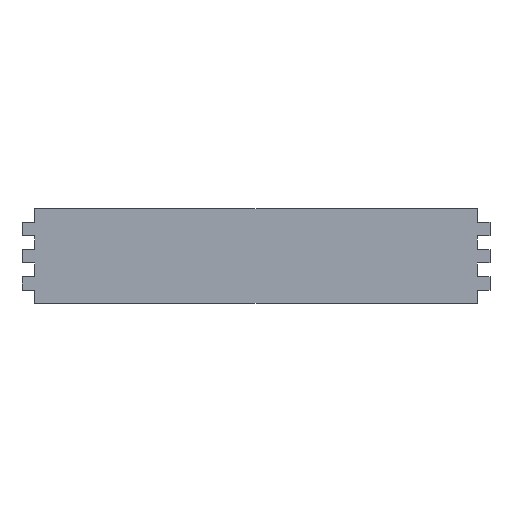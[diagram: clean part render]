
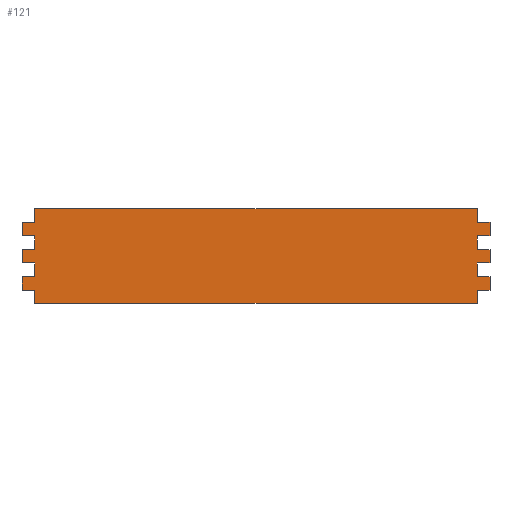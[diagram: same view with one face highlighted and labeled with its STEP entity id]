
A CAD part, top view. The second image highlights one B-rep face of the part: STEP entity #121.
In plain terms, the highlighted free-form (B-spline) face has degree [1, 1] with [2, 2] control points.
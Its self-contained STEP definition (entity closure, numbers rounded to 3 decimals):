
#121=ADVANCED_FACE('',(#151),#519,.T.);
#151=FACE_OUTER_BOUND('',#181,.T.);
#181=EDGE_LOOP('',(#322,#323,#324,#325,#326,#327,#328,#329,#330,#331,#332,
#333,#334,#335,#336,#337,#338,#339,#340,#341,#342,#343,#344,#345,#346,#347,
#348,#349));
#322=ORIENTED_EDGE('',*,*,#433,.F.);
#323=ORIENTED_EDGE('',*,*,#431,.F.);
#324=ORIENTED_EDGE('',*,*,#429,.F.);
#325=ORIENTED_EDGE('',*,*,#427,.F.);
#326=ORIENTED_EDGE('',*,*,#425,.F.);
#327=ORIENTED_EDGE('',*,*,#423,.F.);
#328=ORIENTED_EDGE('',*,*,#421,.F.);
#329=ORIENTED_EDGE('',*,*,#419,.F.);
#330=ORIENTED_EDGE('',*,*,#417,.F.);
#331=ORIENTED_EDGE('',*,*,#415,.F.);
#332=ORIENTED_EDGE('',*,*,#413,.F.);
#333=ORIENTED_EDGE('',*,*,#411,.F.);
#334=ORIENTED_EDGE('',*,*,#409,.F.);
#335=ORIENTED_EDGE('',*,*,#407,.F.);
#336=ORIENTED_EDGE('',*,*,#405,.F.);
#337=ORIENTED_EDGE('',*,*,#403,.F.);
#338=ORIENTED_EDGE('',*,*,#401,.F.);
#339=ORIENTED_EDGE('',*,*,#399,.F.);
#340=ORIENTED_EDGE('',*,*,#397,.F.);
#341=ORIENTED_EDGE('',*,*,#395,.F.);
#342=ORIENTED_EDGE('',*,*,#393,.F.);
#343=ORIENTED_EDGE('',*,*,#391,.F.);
#344=ORIENTED_EDGE('',*,*,#389,.F.);
#345=ORIENTED_EDGE('',*,*,#387,.F.);
#346=ORIENTED_EDGE('',*,*,#385,.F.);
#347=ORIENTED_EDGE('',*,*,#383,.F.);
#348=ORIENTED_EDGE('',*,*,#381,.F.);
#349=ORIENTED_EDGE('',*,*,#379,.F.);
#379=EDGE_CURVE('',#462,#463,#549,.T.);
#381=EDGE_CURVE('',#463,#464,#551,.T.);
#383=EDGE_CURVE('',#464,#465,#553,.T.);
#385=EDGE_CURVE('',#465,#466,#555,.T.);
#387=EDGE_CURVE('',#466,#467,#557,.T.);
#389=EDGE_CURVE('',#467,#468,#559,.T.);
#391=EDGE_CURVE('',#468,#469,#561,.T.);
#393=EDGE_CURVE('',#469,#470,#563,.T.);
#395=EDGE_CURVE('',#470,#471,#565,.T.);
#397=EDGE_CURVE('',#471,#472,#567,.T.);
#399=EDGE_CURVE('',#472,#473,#569,.T.);
#401=EDGE_CURVE('',#473,#474,#571,.T.);
#403=EDGE_CURVE('',#474,#475,#573,.T.);
#405=EDGE_CURVE('',#475,#476,#575,.T.);
#407=EDGE_CURVE('',#476,#477,#577,.T.);
#409=EDGE_CURVE('',#477,#478,#579,.T.);
#411=EDGE_CURVE('',#478,#479,#581,.T.);
#413=EDGE_CURVE('',#479,#480,#583,.T.);
#415=EDGE_CURVE('',#480,#481,#585,.T.);
#417=EDGE_CURVE('',#481,#482,#587,.T.);
#419=EDGE_CURVE('',#482,#483,#589,.T.);
#421=EDGE_CURVE('',#483,#484,#591,.T.);
#423=EDGE_CURVE('',#484,#485,#593,.T.);
#425=EDGE_CURVE('',#485,#486,#595,.T.);
#427=EDGE_CURVE('',#486,#487,#597,.T.);
#429=EDGE_CURVE('',#487,#488,#599,.T.);
#431=EDGE_CURVE('',#488,#489,#601,.T.);
#433=EDGE_CURVE('',#489,#462,#603,.T.);
#462=VERTEX_POINT('',#1022);
#463=VERTEX_POINT('',#1023);
#464=VERTEX_POINT('',#1024);
#465=VERTEX_POINT('',#1025);
#466=VERTEX_POINT('',#1026);
#467=VERTEX_POINT('',#1027);
#468=VERTEX_POINT('',#1028);
#469=VERTEX_POINT('',#1029);
#470=VERTEX_POINT('',#1030);
#471=VERTEX_POINT('',#1031);
#472=VERTEX_POINT('',#1032);
#473=VERTEX_POINT('',#1033);
#474=VERTEX_POINT('',#1034);
#475=VERTEX_POINT('',#1035);
#476=VERTEX_POINT('',#1036);
#477=VERTEX_POINT('',#1037);
#478=VERTEX_POINT('',#1038);
#479=VERTEX_POINT('',#1039);
#480=VERTEX_POINT('',#1040);
#481=VERTEX_POINT('',#1041);
#482=VERTEX_POINT('',#1042);
#483=VERTEX_POINT('',#1043);
#484=VERTEX_POINT('',#1044);
#485=VERTEX_POINT('',#1045);
#486=VERTEX_POINT('',#1046);
#487=VERTEX_POINT('',#1047);
#488=VERTEX_POINT('',#1048);
#489=VERTEX_POINT('',#1049);
#519=B_SPLINE_SURFACE_WITH_KNOTS('',1,1,((#990,#991),(#992,#993)),.UNSPECIFIED.,
.F.,.F.,.F.,(2,2),(2,2),(-150.,0.),(-20.,720.),.UNSPECIFIED.);
#549=B_SPLINE_CURVE_WITH_KNOTS('',1,(#764,#765),.UNSPECIFIED.,.F.,.F.,(2,
2),(0.,21.),.UNSPECIFIED.);
#551=B_SPLINE_CURVE_WITH_KNOTS('',1,(#768,#769),.UNSPECIFIED.,.F.,.F.,(2,
2),(0.,20.),.UNSPECIFIED.);
#553=B_SPLINE_CURVE_WITH_KNOTS('',1,(#772,#773),.UNSPECIFIED.,.F.,.F.,(2,
2),(0.,21.),.UNSPECIFIED.);
#555=B_SPLINE_CURVE_WITH_KNOTS('',1,(#776,#777),.UNSPECIFIED.,.F.,.F.,(2,
2),(0.,20.),.UNSPECIFIED.);
#557=B_SPLINE_CURVE_WITH_KNOTS('',1,(#780,#781),.UNSPECIFIED.,.F.,.F.,(2,
2),(0.,22.),.UNSPECIFIED.);
#559=B_SPLINE_CURVE_WITH_KNOTS('',1,(#784,#785),.UNSPECIFIED.,.F.,.F.,(2,
2),(0.,20.),.UNSPECIFIED.);
#561=B_SPLINE_CURVE_WITH_KNOTS('',1,(#788,#789),.UNSPECIFIED.,.F.,.F.,(2,
2),(0.,21.),.UNSPECIFIED.);
#563=B_SPLINE_CURVE_WITH_KNOTS('',1,(#792,#793),.UNSPECIFIED.,.F.,.F.,(2,
2),(0.,20.),.UNSPECIFIED.);
#565=B_SPLINE_CURVE_WITH_KNOTS('',1,(#796,#797),.UNSPECIFIED.,.F.,.F.,(2,
2),(0.,22.),.UNSPECIFIED.);
#567=B_SPLINE_CURVE_WITH_KNOTS('',1,(#800,#801),.UNSPECIFIED.,.F.,.F.,(2,
2),(0.,20.),.UNSPECIFIED.);
#569=B_SPLINE_CURVE_WITH_KNOTS('',1,(#804,#805),.UNSPECIFIED.,.F.,.F.,(2,
2),(0.,21.),.UNSPECIFIED.);
#571=B_SPLINE_CURVE_WITH_KNOTS('',1,(#808,#809),.UNSPECIFIED.,.F.,.F.,(2,
2),(0.,20.),.UNSPECIFIED.);
#573=B_SPLINE_CURVE_WITH_KNOTS('',1,(#812,#813),.UNSPECIFIED.,.F.,.F.,(2,
2),(0.,22.),.UNSPECIFIED.);
#575=B_SPLINE_CURVE_WITH_KNOTS('',1,(#816,#817),.UNSPECIFIED.,.F.,.F.,(2,
2),(0.,700.),.UNSPECIFIED.);
#577=B_SPLINE_CURVE_WITH_KNOTS('',1,(#820,#821),.UNSPECIFIED.,.F.,.F.,(2,
2),(-22.,0.),.UNSPECIFIED.);
#579=B_SPLINE_CURVE_WITH_KNOTS('',1,(#824,#825),.UNSPECIFIED.,.F.,.F.,(2,
2),(-20.,0.),.UNSPECIFIED.);
#581=B_SPLINE_CURVE_WITH_KNOTS('',1,(#828,#829),.UNSPECIFIED.,.F.,.F.,(2,
2),(-21.,0.),.UNSPECIFIED.);
#583=B_SPLINE_CURVE_WITH_KNOTS('',1,(#832,#833),.UNSPECIFIED.,.F.,.F.,(2,
2),(-20.,0.),.UNSPECIFIED.);
#585=B_SPLINE_CURVE_WITH_KNOTS('',1,(#836,#837),.UNSPECIFIED.,.F.,.F.,(2,
2),(-22.,0.),.UNSPECIFIED.);
#587=B_SPLINE_CURVE_WITH_KNOTS('',1,(#840,#841),.UNSPECIFIED.,.F.,.F.,(2,
2),(-20.,0.),.UNSPECIFIED.);
#589=B_SPLINE_CURVE_WITH_KNOTS('',1,(#844,#845),.UNSPECIFIED.,.F.,.F.,(2,
2),(-21.,0.),.UNSPECIFIED.);
#591=B_SPLINE_CURVE_WITH_KNOTS('',1,(#848,#849),.UNSPECIFIED.,.F.,.F.,(2,
2),(-20.,0.),.UNSPECIFIED.);
#593=B_SPLINE_CURVE_WITH_KNOTS('',1,(#852,#853),.UNSPECIFIED.,.F.,.F.,(2,
2),(-22.,0.),.UNSPECIFIED.);
#595=B_SPLINE_CURVE_WITH_KNOTS('',1,(#856,#857),.UNSPECIFIED.,.F.,.F.,(2,
2),(-20.,0.),.UNSPECIFIED.);
#597=B_SPLINE_CURVE_WITH_KNOTS('',1,(#860,#861),.UNSPECIFIED.,.F.,.F.,(2,
2),(-21.,0.),.UNSPECIFIED.);
#599=B_SPLINE_CURVE_WITH_KNOTS('',1,(#864,#865),.UNSPECIFIED.,.F.,.F.,(2,
2),(-20.,0.),.UNSPECIFIED.);
#601=B_SPLINE_CURVE_WITH_KNOTS('',1,(#868,#869),.UNSPECIFIED.,.F.,.F.,(2,
2),(-21.,0.),.UNSPECIFIED.);
#603=B_SPLINE_CURVE_WITH_KNOTS('',1,(#872,#873),.UNSPECIFIED.,.F.,.F.,(2,
2),(-700.,0.),.UNSPECIFIED.);
#764=CARTESIAN_POINT('',(0.,0.,20.));
#765=CARTESIAN_POINT('',(0.,21.,20.));
#768=CARTESIAN_POINT('',(0.,21.,20.));
#769=CARTESIAN_POINT('',(-20.,21.,20.));
#772=CARTESIAN_POINT('',(-20.,21.,20.));
#773=CARTESIAN_POINT('',(-20.,42.,20.));
#776=CARTESIAN_POINT('',(-20.,42.,20.));
#777=CARTESIAN_POINT('',(0.,42.,20.));
#780=CARTESIAN_POINT('',(0.,42.,20.));
#781=CARTESIAN_POINT('',(0.,64.,20.));
#784=CARTESIAN_POINT('',(0.,64.,20.));
#785=CARTESIAN_POINT('',(-20.,64.,20.));
#788=CARTESIAN_POINT('',(-20.,64.,20.));
#789=CARTESIAN_POINT('',(-20.,85.,20.));
#792=CARTESIAN_POINT('',(-20.,85.,20.));
#793=CARTESIAN_POINT('',(0.,85.,20.));
#796=CARTESIAN_POINT('',(0.,85.,20.));
#797=CARTESIAN_POINT('',(0.,107.,20.));
#800=CARTESIAN_POINT('',(0.,107.,20.));
#801=CARTESIAN_POINT('',(-20.,107.,20.));
#804=CARTESIAN_POINT('',(-20.,107.,20.));
#805=CARTESIAN_POINT('',(-20.,128.,20.));
#808=CARTESIAN_POINT('',(-20.,128.,20.));
#809=CARTESIAN_POINT('',(0.,128.,20.));
#812=CARTESIAN_POINT('',(0.,128.,20.));
#813=CARTESIAN_POINT('',(0.,150.,20.));
#816=CARTESIAN_POINT('',(0.,150.,20.));
#817=CARTESIAN_POINT('',(700.,150.,20.));
#820=CARTESIAN_POINT('',(700.,150.,20.));
#821=CARTESIAN_POINT('',(700.,128.,20.));
#824=CARTESIAN_POINT('',(700.,128.,20.));
#825=CARTESIAN_POINT('',(720.,128.,20.));
#828=CARTESIAN_POINT('',(720.,128.,20.));
#829=CARTESIAN_POINT('',(720.,107.,20.));
#832=CARTESIAN_POINT('',(720.,107.,20.));
#833=CARTESIAN_POINT('',(700.,107.,20.));
#836=CARTESIAN_POINT('',(700.,107.,20.));
#837=CARTESIAN_POINT('',(700.,85.,20.));
#840=CARTESIAN_POINT('',(700.,85.,20.));
#841=CARTESIAN_POINT('',(720.,85.,20.));
#844=CARTESIAN_POINT('',(720.,85.,20.));
#845=CARTESIAN_POINT('',(720.,64.,20.));
#848=CARTESIAN_POINT('',(720.,64.,20.));
#849=CARTESIAN_POINT('',(700.,64.,20.));
#852=CARTESIAN_POINT('',(700.,64.,20.));
#853=CARTESIAN_POINT('',(700.,42.,20.));
#856=CARTESIAN_POINT('',(700.,42.,20.));
#857=CARTESIAN_POINT('',(720.,42.,20.));
#860=CARTESIAN_POINT('',(720.,42.,20.));
#861=CARTESIAN_POINT('',(720.,21.,20.));
#864=CARTESIAN_POINT('',(720.,21.,20.));
#865=CARTESIAN_POINT('',(700.,21.,20.));
#868=CARTESIAN_POINT('',(700.,21.,20.));
#869=CARTESIAN_POINT('',(700.,0.,20.));
#872=CARTESIAN_POINT('',(700.,0.,20.));
#873=CARTESIAN_POINT('',(0.,0.,20.));
#990=CARTESIAN_POINT('',(-20.,150.,20.));
#991=CARTESIAN_POINT('',(720.,150.,20.));
#992=CARTESIAN_POINT('',(-20.,0.,20.));
#993=CARTESIAN_POINT('',(720.,0.,20.));
#1022=CARTESIAN_POINT('',(0.,0.,20.));
#1023=CARTESIAN_POINT('',(0.,21.,20.));
#1024=CARTESIAN_POINT('',(-20.,21.,20.));
#1025=CARTESIAN_POINT('',(-20.,42.,20.));
#1026=CARTESIAN_POINT('',(0.,42.,20.));
#1027=CARTESIAN_POINT('',(0.,64.,20.));
#1028=CARTESIAN_POINT('',(-20.,64.,20.));
#1029=CARTESIAN_POINT('',(-20.,85.,20.));
#1030=CARTESIAN_POINT('',(0.,85.,20.));
#1031=CARTESIAN_POINT('',(0.,107.,20.));
#1032=CARTESIAN_POINT('',(-20.,107.,20.));
#1033=CARTESIAN_POINT('',(-20.,128.,20.));
#1034=CARTESIAN_POINT('',(0.,128.,20.));
#1035=CARTESIAN_POINT('',(0.,150.,20.));
#1036=CARTESIAN_POINT('',(700.,150.,20.));
#1037=CARTESIAN_POINT('',(700.,128.,20.));
#1038=CARTESIAN_POINT('',(720.,128.,20.));
#1039=CARTESIAN_POINT('',(720.,107.,20.));
#1040=CARTESIAN_POINT('',(700.,107.,20.));
#1041=CARTESIAN_POINT('',(700.,85.,20.));
#1042=CARTESIAN_POINT('',(720.,85.,20.));
#1043=CARTESIAN_POINT('',(720.,64.,20.));
#1044=CARTESIAN_POINT('',(700.,64.,20.));
#1045=CARTESIAN_POINT('',(700.,42.,20.));
#1046=CARTESIAN_POINT('',(720.,42.,20.));
#1047=CARTESIAN_POINT('',(720.,21.,20.));
#1048=CARTESIAN_POINT('',(700.,21.,20.));
#1049=CARTESIAN_POINT('',(700.,0.,20.));
